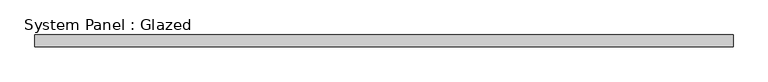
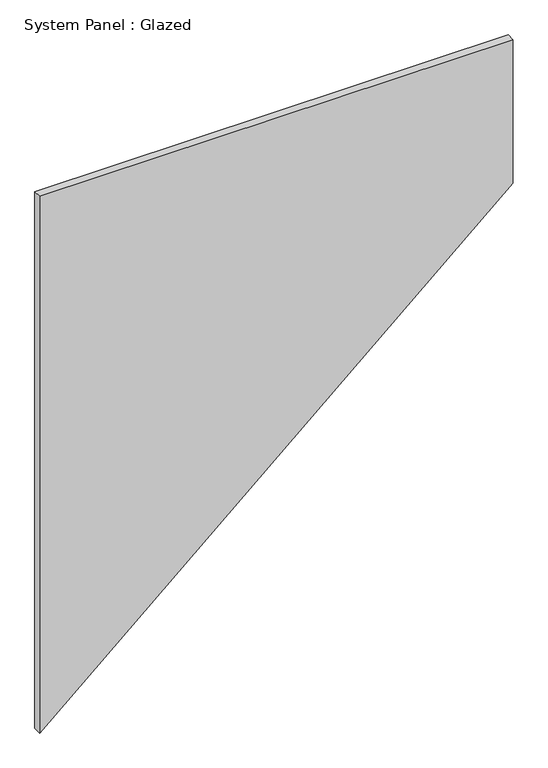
"""IFC4 building model written with IfcOpenShell, lengths in millimetres: plate geometry, System Panel : Glazed."""

from ifc_helpers import new_model, si_unit, frame, origin, place, context, project, spatial, polyline, outline, extrude, source, transform, mapped, element, save


def system_panel_glazed_3ceffcae(model_context):
    return source(origin(), model_context, "Body", "SweptSolid", [
        extrude(outline(polyline([(0.0, -735.8695652), (1290.3580977, 735.8695652), (1762.7403778, 735.8695652), (1762.7403778, -735.8695652), (0.0, -735.8695652)])), frame((0.0, 24.5, 0.0), z_axis=(0.0, 1.0, 0.0), x_axis=(0.0, 0.0, 1.0)), (0.0, 0.0, 1.0), 25.0),
    ])


if __name__ == "__main__":
    model = new_model("IFC4")
    model_context = context("Model", 3, world=origin())
    ifc_project = project(units=[si_unit("LENGTHUNIT", "METRE", prefix="MILLI")], contexts=[model_context])
    site = spatial("IfcSite", under=ifc_project)
    building = spatial("IfcBuilding", under=site)
    placement = place(None, origin())
    system_panel_glazed_shape = system_panel_glazed_3ceffcae(model_context)
    element("IfcPlate", 1, ObjectType="System Panel : Glazed", at=placement, inside=building, context=model_context, shape_type="MappedRepresentation", body=[
        mapped(system_panel_glazed_shape, transform((0.0, 0.0, 0.0), x_axis=(1.0, 0.0, 0.0), y_axis=(0.0, 1.0, 0.0), z_axis=(0.0, 0.0, 1.0))),
    ])
    save(model, "model.ifc")
